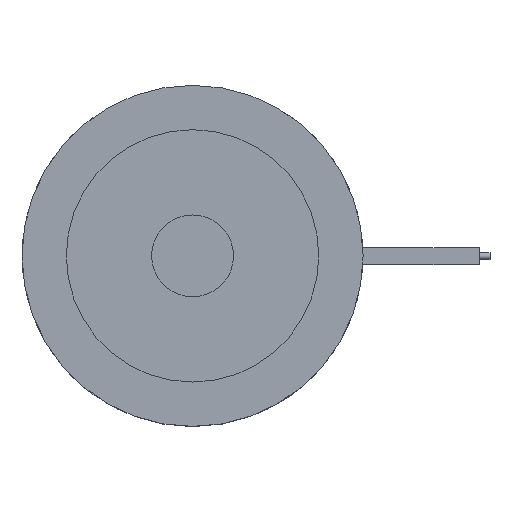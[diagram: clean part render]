
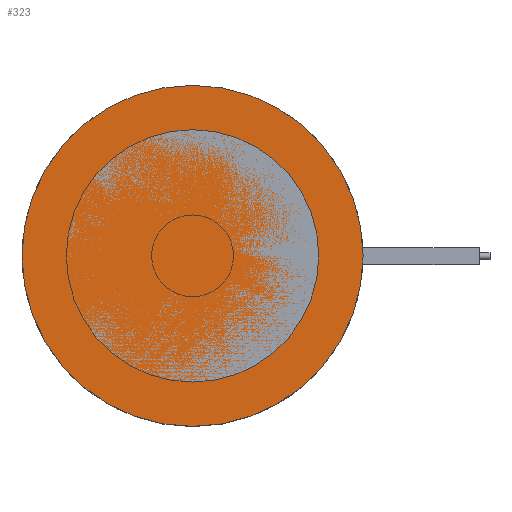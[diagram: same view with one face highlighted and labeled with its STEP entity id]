
A CAD part, top view. The second image highlights one B-rep face of the part: STEP entity #323.
In plain terms, the highlighted planar face has unit normal (0, 0, 1).
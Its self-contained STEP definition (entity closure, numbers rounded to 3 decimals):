
#323=ADVANCED_FACE('',(#423),#389,.F.);
#389=PLANE('',#1130);
#423=FACE_OUTER_BOUND('',#501,.T.);
#501=EDGE_LOOP('',(#633));
#633=ORIENTED_EDGE('',*,*,#934,.F.);
#838=VERTEX_POINT('',#1628);
#934=EDGE_CURVE('',#838,#838,#1039,.T.);
#1039=CIRCLE('',#1129,25.);
#1129=AXIS2_PLACEMENT_3D('',#1627,#1324,#1325);
#1130=AXIS2_PLACEMENT_3D('',#1629,#1326,#1327);
#1324=DIRECTION('',(0.,0.,-1.));
#1325=DIRECTION('',(-1.,0.,0.));
#1326=DIRECTION('',(0.,0.,-1.));
#1327=DIRECTION('',(-1.,0.,0.));
#1627=CARTESIAN_POINT('',(0.,0.,0.));
#1628=CARTESIAN_POINT('',(-25.,0.,0.));
#1629=CARTESIAN_POINT('',(0.,0.,0.));
